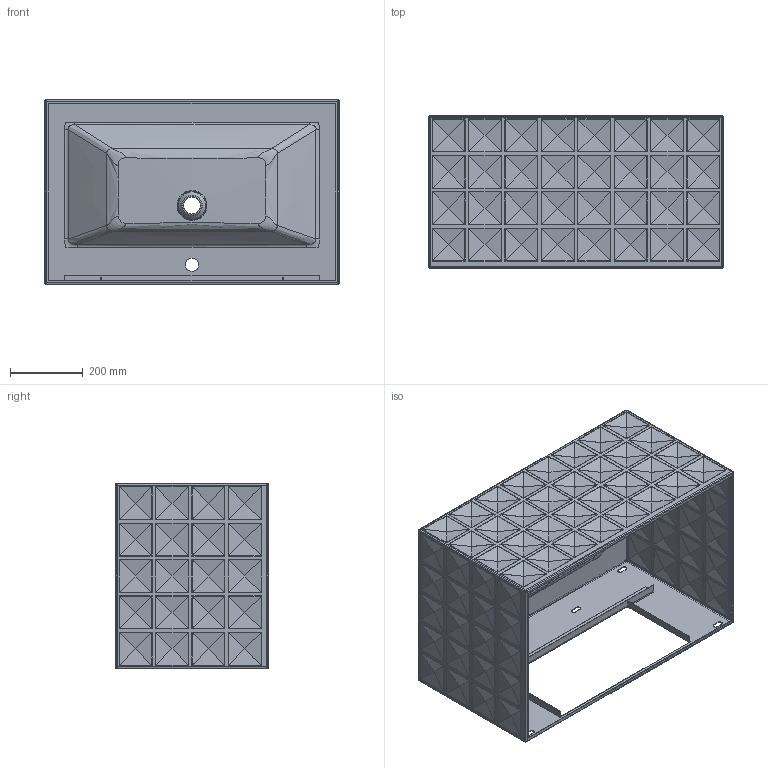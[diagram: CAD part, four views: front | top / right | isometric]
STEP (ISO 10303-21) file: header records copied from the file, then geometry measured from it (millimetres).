
FILE_DESCRIPTION (( 'STEP AP203' ), '1' );
FILE_NAME ('BE3C_Loft_Ornament_A230SWV4A.STEP', '2017-06-19T08:00:40', ( '' ), ( '' ), 'SwSTEP 2.0', 'SolidWorks 2017', '' );
FILE_SCHEMA (( 'CONFIG_CONTROL_DESIGN' ));
Length unit declared in the file: millimetre
Products named in the file (1): BE3C_Loft_Ornament_A230SWV4A
Bounding box: 810 x 420 x 510 mm (x, y, z)
Volume: 3050036.8 mm3; surface area: 3031534.7 mm2
Topology: 1 solids, 1 shells, 728 faces, 1545 edges, 959 vertices
Faces by surface type: plane 628, bspline 48, cylinder 32, sphere 8, torus 8, cone 4
Full cylindrical faces by diameter (mm): 36 x1, 46 x1
Entity records: 42560 total; most frequent: CARTESIAN_POINT 27303, ORIENTED_EDGE 3036, DIRECTION 2828, EDGE_CURVE 1518, VECTOR 1314, LINE 1314, VERTEX_POINT 954, EDGE_LOOP 908
